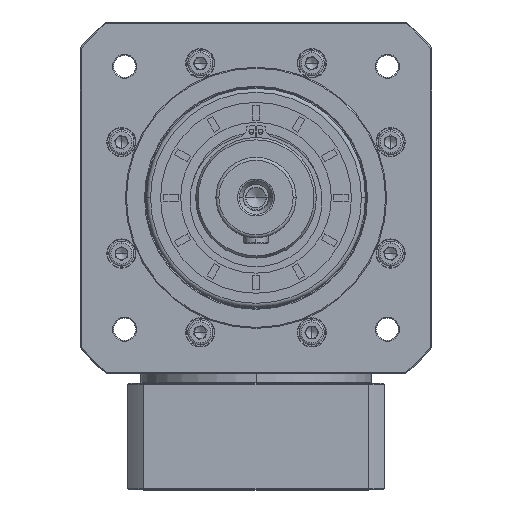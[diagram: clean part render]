
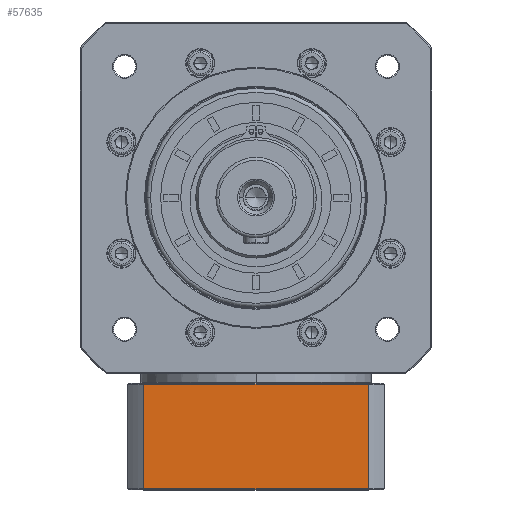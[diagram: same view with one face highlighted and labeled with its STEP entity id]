
A CAD part, top view. The second image highlights one B-rep face of the part: STEP entity #57635.
In plain terms, the highlighted planar face has unit normal (0, 0, 1).
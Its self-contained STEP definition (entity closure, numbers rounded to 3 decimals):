
#9380 = CARTESIAN_POINT ( 'NONE',  ( -261.284, -116.393, 100.267 ) ) ;
#10521 = EDGE_CURVE ( 'NONE', #14261, #23049, #77783, .T. ) ;
#14261 = VERTEX_POINT ( 'NONE', #26865 ) ;
#14457 = VECTOR ( 'NONE', #118422, 1000. ) ;
#23049 = VERTEX_POINT ( 'NONE', #9380 ) ;
#26865 = CARTESIAN_POINT ( 'NONE',  ( -261.284, -168.393, 100.267 ) ) ;
#30929 = ORIENTED_EDGE ( 'NONE', *, *, #161096, .F. ) ;
#31793 = CARTESIAN_POINT ( 'NONE',  ( -149.409, 126.928, 100.267 ) ) ;
#39485 = EDGE_LOOP ( 'NONE', ( #30929, #143609, #104740, #131771 ) ) ;
#40679 = AXIS2_PLACEMENT_3D ( 'NONE', #64483, #127206, #115762 ) ;
#44642 = VECTOR ( 'NONE', #92970, 1000. ) ;
#45940 = DIRECTION ( 'NONE',  ( 0., -1., 0. ) ) ;
#47913 = VERTEX_POINT ( 'NONE', #120410 ) ;
#53068 = PLANE ( 'NONE',  #40679 ) ;
#57635 = ADVANCED_FACE ( 'NONE', ( #80423 ), #53068, .F. ) ;
#64483 = CARTESIAN_POINT ( 'NONE',  ( -269.346, -168.893, 100.267 ) ) ;
#65054 = EDGE_CURVE ( 'NONE', #76198, #14261, #111472, .T. ) ;
#74315 = VECTOR ( 'NONE', #110307, 1000. ) ;
#76198 = VERTEX_POINT ( 'NONE', #115696 ) ;
#77783 = LINE ( 'NONE', #79810, #44642 ) ;
#79810 = CARTESIAN_POINT ( 'NONE',  ( -261.284, -168.893, 100.267 ) ) ;
#80183 = CARTESIAN_POINT ( 'NONE',  ( -269.346, -116.393, 100.267 ) ) ;
#80423 = FACE_OUTER_BOUND ( 'NONE', #39485, .T. ) ;
#92021 = VECTOR ( 'NONE', #45940, 1000. ) ;
#92970 = DIRECTION ( 'NONE',  ( 0., 1., 0. ) ) ;
#104740 = ORIENTED_EDGE ( 'NONE', *, *, #10521, .F. ) ;
#110307 = DIRECTION ( 'NONE',  ( -1., 0., 0. ) ) ;
#111472 = LINE ( 'NONE', #133747, #74315 ) ;
#115696 = CARTESIAN_POINT ( 'NONE',  ( -149.409, -168.393, 100.267 ) ) ;
#115762 = DIRECTION ( 'NONE',  ( -1., 0., 0. ) ) ;
#117344 = LINE ( 'NONE', #31793, #92021 ) ;
#118422 = DIRECTION ( 'NONE',  ( 1., 0., 0. ) ) ;
#120410 = CARTESIAN_POINT ( 'NONE',  ( -149.409, -116.393, 100.267 ) ) ;
#122822 = EDGE_CURVE ( 'NONE', #23049, #47913, #156769, .T. ) ;
#127206 = DIRECTION ( 'NONE',  ( 0., 0., -1. ) ) ;
#131771 = ORIENTED_EDGE ( 'NONE', *, *, #65054, .F. ) ;
#133747 = CARTESIAN_POINT ( 'NONE',  ( -269.346, -168.393, 100.267 ) ) ;
#143609 = ORIENTED_EDGE ( 'NONE', *, *, #122822, .F. ) ;
#156769 = LINE ( 'NONE', #80183, #14457 ) ;
#161096 = EDGE_CURVE ( 'NONE', #47913, #76198, #117344, .T. ) ;
